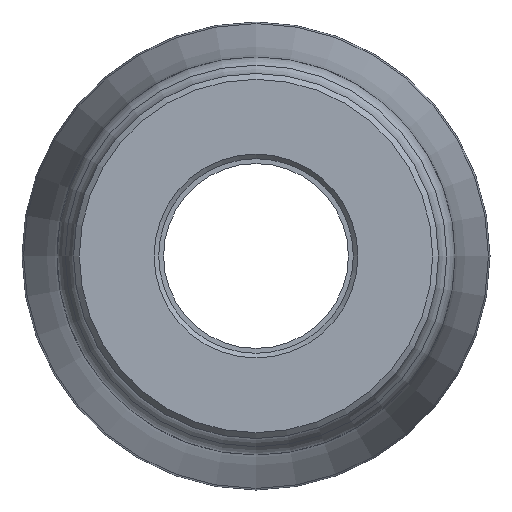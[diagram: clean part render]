
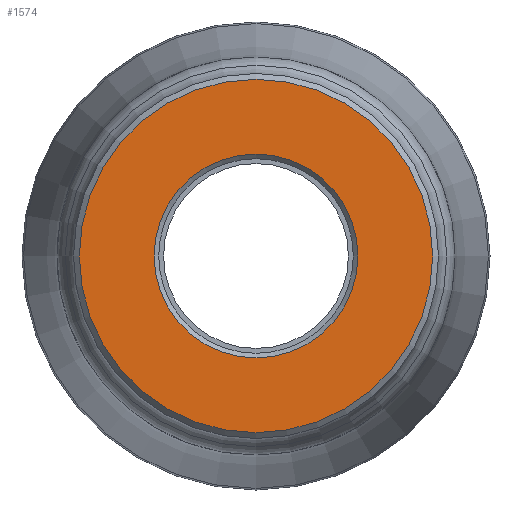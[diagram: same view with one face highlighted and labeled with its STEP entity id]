
A CAD part, left-side view. The second image highlights one B-rep face of the part: STEP entity #1574.
In plain terms, the highlighted planar face has unit normal (-1, 0, 0).
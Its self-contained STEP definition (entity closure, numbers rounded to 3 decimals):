
#24=FACE_BOUND('',#401,.T.);
#56=PLANE('',#1725);
#292=FACE_OUTER_BOUND('',#400,.T.);
#400=EDGE_LOOP('',(#1156));
#401=EDGE_LOOP('',(#1157));
#544=CIRCLE('',#1724,12.639);
#545=CIRCLE('',#1726,21.896);
#715=VERTEX_POINT('',#2764);
#716=VERTEX_POINT('',#2767);
#886=EDGE_CURVE('',#715,#715,#544,.T.);
#887=EDGE_CURVE('',#716,#716,#545,.T.);
#1156=ORIENTED_EDGE('',*,*,#887,.F.);
#1157=ORIENTED_EDGE('',*,*,#886,.F.);
#1574=ADVANCED_FACE('',(#292,#24),#56,.T.);
#1724=AXIS2_PLACEMENT_3D('',#2765,#2005,#2006);
#1725=AXIS2_PLACEMENT_3D('',#2766,#2007,#2008);
#1726=AXIS2_PLACEMENT_3D('',#2768,#2009,#2010);
#2005=DIRECTION('center_axis',(-1.,0.,0.));
#2006=DIRECTION('ref_axis',(0.,-1.,0.));
#2007=DIRECTION('center_axis',(-1.,0.,0.));
#2008=DIRECTION('ref_axis',(0.,0.,1.));
#2009=DIRECTION('center_axis',(1.,0.,0.));
#2010=DIRECTION('ref_axis',(0.,-1.,0.));
#2764=CARTESIAN_POINT('',(0.,12.639,0.));
#2765=CARTESIAN_POINT('Origin',(0.,0.,0.));
#2766=CARTESIAN_POINT('Origin',(0.,22.62,0.));
#2767=CARTESIAN_POINT('',(0.,21.896,0.));
#2768=CARTESIAN_POINT('Origin',(0.,0.,0.));
